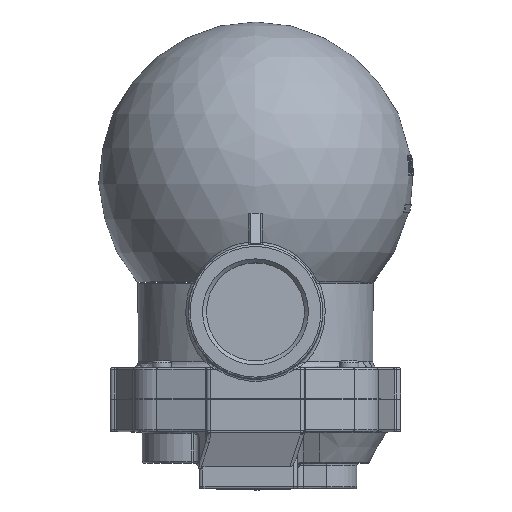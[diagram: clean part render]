
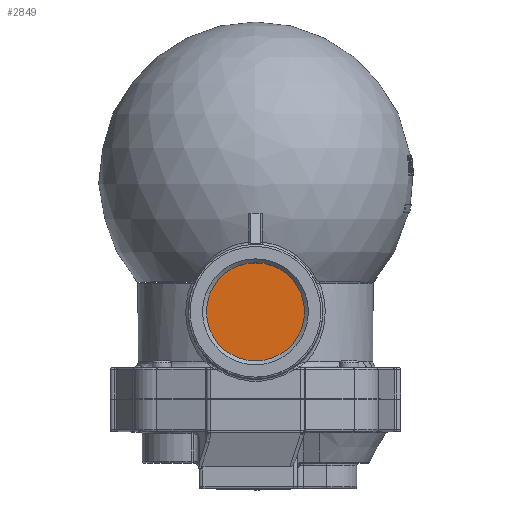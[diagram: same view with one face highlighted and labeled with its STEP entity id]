
A CAD part, top view. The second image highlights one B-rep face of the part: STEP entity #2849.
In plain terms, the highlighted planar face has unit normal (0, 0, 1).
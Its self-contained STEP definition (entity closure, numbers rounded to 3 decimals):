
#2849=ADVANCED_FACE('',(#14672),#14674,.T.);
#14672=FACE_BOUND('',#14673,.T.);
#14673=EDGE_LOOP('',(#36730));
#14674=PLANE('',#14675);
#14675=AXIS2_PLACEMENT_3D('',#14676,#14677,#14678);
#14676=CARTESIAN_POINT('',(0.,0.,85.));
#14677=DIRECTION('',(0.,0.,1.));
#14678=DIRECTION('',(1.,0.,0.));
#36730=ORIENTED_EDGE('',*,*,#42093,.T.);
#42093=EDGE_CURVE('',#45811,#45811,#45812,.T.);
#45811=VERTEX_POINT('',#58478);
#45812=CIRCLE('',#58479,25.);
#58478=CARTESIAN_POINT('',(25.,0.,85.));
#58479=AXIS2_PLACEMENT_3D('',#58480,#58481,#58482);
#58480=CARTESIAN_POINT('',(0.,0.,85.));
#58481=DIRECTION('',(0.,0.,1.));
#58482=DIRECTION('',(1.,0.,0.));
